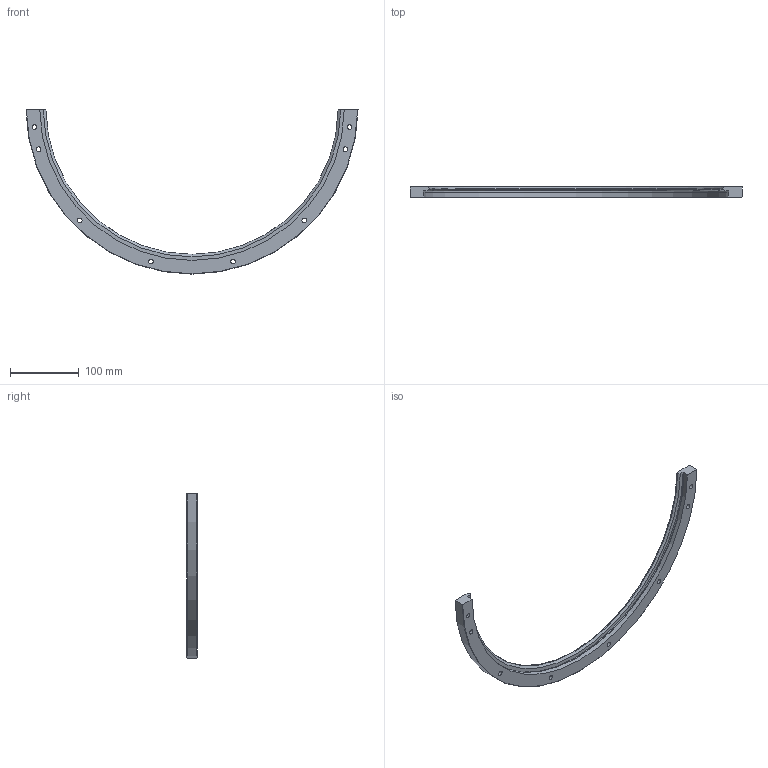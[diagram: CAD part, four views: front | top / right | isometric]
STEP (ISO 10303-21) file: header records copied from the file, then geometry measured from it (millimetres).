
FILE_DESCRIPTION( ( 'STEP AP203' ), '1' );
FILE_NAME( 'p:/temp/worker_19/temp/exporttempdir_2064_742_DTUWI/format_0/TRIM 482 R180 .stp', '2021-09-17T07:50:17', ( 'License CC BY-ND 4.0' ), ( 'CADENAS' ), ' ', 'PARTsolutions', ' ' );
FILE_SCHEMA( ( 'CONFIG_CONTROL_DESIGN' ) );
Length unit declared in the file: millimetre
Products named in the file (1): _TRIM 482 R180  
Bounding box: 482.47 x 15.5 x 238.75 mm (x, y, z)
Volume: 244263.3 mm3; surface area: 64351.9 mm2
Topology: 1 solids, 1 shells, 38 faces, 84 edges, 56 vertices
Faces by surface type: cylinder 19, plane 14, cone 4, torus 1
Full cylindrical faces by diameter (mm): 6.8 x8, 11 x8
Entity records: 1090 total; most frequent: CARTESIAN_POINT 205, DIRECTION 180, ORIENTED_EDGE 136, AXIS2_PLACEMENT_3D 83, EDGE_LOOP 78, EDGE_CURVE 68, VERTEX_POINT 56, FACE_OUTER_BOUND 54
